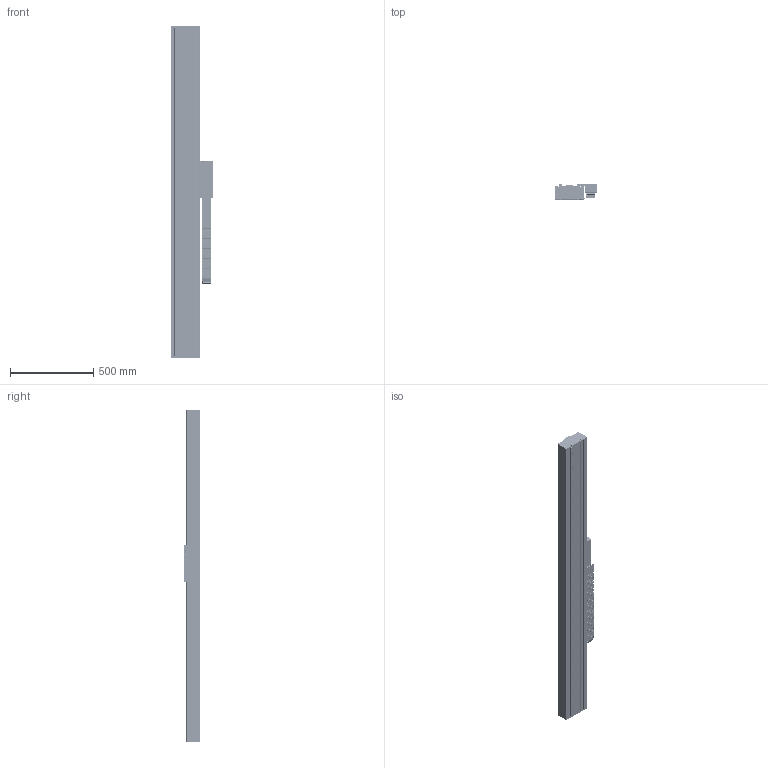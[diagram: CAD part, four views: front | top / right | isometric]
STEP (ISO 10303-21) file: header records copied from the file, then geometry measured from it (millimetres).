
FILE_DESCRIPTION (( 'STEP AP203' ), '1' );
FILE_NAME ('STF20120O-xC1B-Bxx.STEP', '2007-06-22T21:39:26', ( 'Yaskawa' ), ( 'Yaskawa' ), 'SwSTEP 2.0', 'SolidWorks 2007', '' );
FILE_SCHEMA (( 'CONFIG_CONTROL_DESIGN' ));
Products named in the file (60): STF20BM Base_STF20BM-014; STF20120O-xC1B-Bxx; 07.50.028.0_105; SGLFM-20324AC; 07.50.028.0_98; STF2035-007 End Stop; End Stop with Bumper; Complete Carriage; STF20-120 SSR15W Carriage-R2; STF2035-001B F20-120 Carriage; STF2035-002A-R2 F2035 Carriage Horn; STF2035-003 Renishaw Encoder Mount; RGH22B; STF2035-004 Flag; SSR15W Block; SGLFW-20A120AP; STCM-R1; STCM-001-R2 Cable Bracket; STCM-005-R1 Cable Assembly Cover; STCM-002-R2 Cable Assembly Front; STCM-003 Cable Assembly Bottom; STCM-004 Cable Assembly Side; STCM-006-R1 Upper E-chain Bracket; STF2035-010-02 Side Cover 2_O; Serial Converter; STF2035-006 Endplate; STF2035-009-02 Top Cover 2_O; STCM-007 Lower E-Chain Bracket; STF20120O; 07.50.028.0_96; 07.50.028.0_97; 07.50.028.0_99; 07.50.028.0_117; 07.50.028.0_100; 07.50.028.0_102; 07.50.028.0_101; 07.50.028.0_103; 07.50.028.0_104; 07.50.028.0_106; 07.50.028.0_107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
Assembly tree (97 placements, depth 4):
  STF20120O-xC1B-Bxx
    STF20120O
      07.50.028.0_103
      07.50.028.0_111  x15
      07.50.028.0_118
      07.50.028.0_117
      07.50.028.0_101
      07.50.028.0_96
      07.50.028.0_105  x14
      07.50.028.0_110
      07.50.028.0_114
      07.50.028.0_115
      07.50.028.0_106
      07.50.028.0_116
      07.50.028.0_121
      07.50.028.0_104
      07.50.028.0_107
      07.50.028.0_122
      07.50.028.0_113
      07.50.028.0_99
      07.50.028.0_102
      07.50.028.0_120
      07.50.028.0_98
      07.50.028.0_108
      07.50.028.0_119
      07.50.028.0_109
      07.50.028.0_123
      07.50.028.0_100
      07.50.028.0_97
      07.50.028.0_112
    STF20BM Base_STF20BM-014
      SGLFM-20756AC  x2
      Mult-SR15+580LY_014  x2
      STF20BM Base_STF20BM-014
      SGLFM-20324AC
      End Stop with Bumper  x4
        Bumper-Medium
        STF2035-007 End Stop
    STF2035-006 Endplate  x2
    STF2035-009-02 Top Cover 2_O
    STCM-007 Lower E-Chain Bracket
    STF2035-010-02 Side Cover 2_O  x2
    Complete Carriage
      STCM-R1
        STCM-001-R2 Cable Bracket
        STCM-004 Cable Assembly Side
        STCM-005-R1 Cable Assembly Cover
        Serial Converter
        STCM-003 Cable Assembly Bottom
        STCM-002-R2 Cable Assembly Front
        STCM-006-R1 Upper E-chain Bracket
      STF20-120 SSR15W Carriage-R2
        RGH22B
        STF2035-001B F20-120 Carriage
        STF2035-002A-R2 F2035 Carriage Horn  x2
        SSR15W Block  x4
        STF2035-005-R2 Cable Router
        STF2035-003 Renishaw Encoder Mount
        STF2035-004 Flag
        SGLFW-20A120AP
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Bounding box: 254.2 x 94.7 x 1989.05 mm (x, y, z)
Volume: 10712433.3 mm3; surface area: 3629284.7 mm2
Topology: 147 solids, 147 shells, 7838 faces, 20433 edges, 13073 vertices
Faces by surface type: plane 3948, cylinder 3284, cone 558, bspline 44, torus 4
Entity records: 149790 total; most frequent: DIRECTION 25452, CARTESIAN_POINT 24778, ORIENTED_EDGE 23436, EDGE_CURVE 11718, AXIS2_PLACEMENT_3D 8999, VERTEX_POINT 7674, VECTOR 7454, LINE 7454
